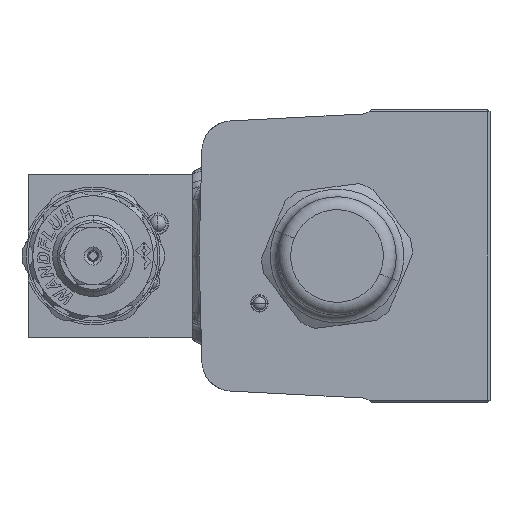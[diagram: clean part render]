
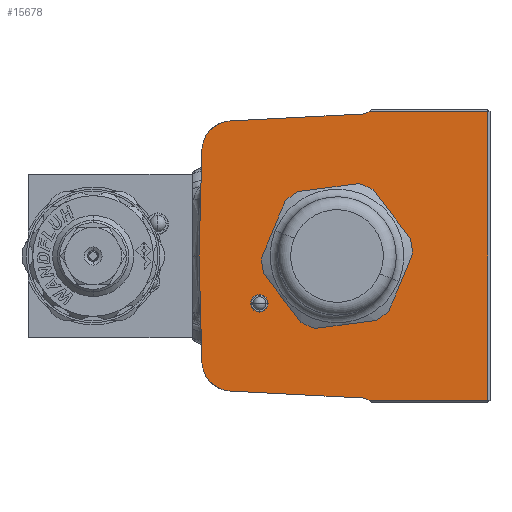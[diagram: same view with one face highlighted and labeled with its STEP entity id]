
A CAD part, left-side view. The second image highlights one B-rep face of the part: STEP entity #15678.
In plain terms, the highlighted planar face has unit normal (-1, 0, 0).
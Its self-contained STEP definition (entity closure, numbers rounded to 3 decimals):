
#401 = EDGE_CURVE ( 'NONE', #20166, #8171, #53503, .T. ) ;
#703 = CARTESIAN_POINT ( 'NONE',  ( -46.6, 31.978, -0.837 ) ) ;
#1311 = VERTEX_POINT ( 'NONE', #45543 ) ;
#1477 = EDGE_LOOP ( 'NONE', ( #17277, #48004, #50598, #7699, #42330, #36808, #29821, #4302, #20308, #52745, #30112 ) ) ;
#1654 = VECTOR ( 'NONE', #12699, 1000. ) ;
#1856 = LINE ( 'NONE', #61164, #1654 ) ;
#1963 = CIRCLE ( 'NONE', #23125, 7. ) ;
#2666 = DIRECTION ( 'NONE',  ( 0., -1., 0. ) ) ;
#2914 = CARTESIAN_POINT ( 'NONE',  ( -46.6, 24.36, 24.347 ) ) ;
#3034 = LINE ( 'NONE', #43818, #33593 ) ;
#3503 = EDGE_CURVE ( 'NONE', #56980, #53450, #12129, .T. ) ;
#4302 = ORIENTED_EDGE ( 'NONE', *, *, #29555, .F. ) ;
#4774 = DIRECTION ( 'NONE',  ( 0., -0.999, -0.052 ) ) ;
#5668 = CARTESIAN_POINT ( 'NONE',  ( -46.6, 1.706, 32.544 ) ) ;
#6726 = CIRCLE ( 'NONE', #28156, 3. ) ;
#7696 = DIRECTION ( 'NONE',  ( 0., 0., 1. ) ) ;
#7699 = ORIENTED_EDGE ( 'NONE', *, *, #29360, .T. ) ;
#8171 = VERTEX_POINT ( 'NONE', #10936 ) ;
#9348 = CARTESIAN_POINT ( 'NONE',  ( -46.6, 24.36, -24.347 ) ) ;
#9707 = VECTOR ( 'NONE', #35125, 1000. ) ;
#10095 = VECTOR ( 'NONE', #4774, 1000. ) ;
#10936 = CARTESIAN_POINT ( 'NONE',  ( -46.6, 18., -9. ) ) ;
#11263 = VERTEX_POINT ( 'NONE', #40922 ) ;
#11645 = CIRCLE ( 'NONE', #18099, 7. ) ;
#12129 = CIRCLE ( 'NONE', #18803, 16. ) ;
#12220 = DIRECTION ( 'NONE',  ( -1., 0., 0. ) ) ;
#12486 = AXIS2_PLACEMENT_3D ( 'NONE', #38245, #38233, #38167 ) ;
#12699 = DIRECTION ( 'NONE',  ( 0., -0.026, 1. ) ) ;
#12810 = VECTOR ( 'NONE', #32338, 1000. ) ;
#14294 = FACE_BOUND ( 'NONE', #25012, .T. ) ;
#14354 = DIRECTION ( 'NONE',  ( 0., 0., 1. ) ) ;
#15550 = VECTOR ( 'NONE', #56078, 1000. ) ;
#15678 = ADVANCED_FACE ( 'NONE', ( #54814, #14294, #36759 ), #38990, .T. ) ;
#15770 = LINE ( 'NONE', #21916, #15550 ) ;
#16339 = AXIS2_PLACEMENT_3D ( 'NONE', #41780, #12220, #46801 ) ;
#16427 = AXIS2_PLACEMENT_3D ( 'NONE', #60944, #32035, #2666 ) ;
#16498 = ORIENTED_EDGE ( 'NONE', *, *, #3503, .F. ) ;
#17277 = ORIENTED_EDGE ( 'NONE', *, *, #28984, .T. ) ;
#18099 = AXIS2_PLACEMENT_3D ( 'NONE', #9348, #43988, #14354 ) ;
#18227 = CARTESIAN_POINT ( 'NONE',  ( -46.6, 24.726, 31.337 ) ) ;
#18803 = AXIS2_PLACEMENT_3D ( 'NONE', #60745, #60732, #60687 ) ;
#19219 = CIRCLE ( 'NONE', #34845, 3. ) ;
#19504 = DIRECTION ( 'NONE',  ( 1., 0., 0. ) ) ;
#20166 = VERTEX_POINT ( 'NONE', #57768 ) ;
#20308 = ORIENTED_EDGE ( 'NONE', *, *, #25205, .T. ) ;
#21916 = CARTESIAN_POINT ( 'NONE',  ( -46.6, -35.5, -33.5 ) ) ;
#22060 = ORIENTED_EDGE ( 'NONE', *, *, #401, .F. ) ;
#23058 = VECTOR ( 'NONE', #39755, 1000. ) ;
#23125 = AXIS2_PLACEMENT_3D ( 'NONE', #2914, #37310, #7696 ) ;
#23338 = CARTESIAN_POINT ( 'NONE',  ( -46.6, 24.726, -31.337 ) ) ;
#23853 = LINE ( 'NONE', #703, #23058 ) ;
#24229 = EDGE_LOOP ( 'NONE', ( #45374, #16498 ) ) ;
#24701 = VERTEX_POINT ( 'NONE', #62940 ) ;
#25012 = EDGE_LOOP ( 'NONE', ( #50109, #22060 ) ) ;
#25129 = LINE ( 'NONE', #61206, #12810 ) ;
#25205 = EDGE_CURVE ( 'NONE', #1311, #32971, #23853, .T. ) ;
#25386 = DIRECTION ( 'NONE',  ( 1., 0., 0. ) ) ;
#27868 = DIRECTION ( 'NONE',  ( 0., 0., 1. ) ) ;
#28156 = AXIS2_PLACEMENT_3D ( 'NONE', #49121, #19504, #53769 ) ;
#28984 = EDGE_CURVE ( 'NONE', #46727, #11263, #19219, .T. ) ;
#29099 = EDGE_CURVE ( 'NONE', #11263, #60932, #15770, .T. ) ;
#29164 = EDGE_CURVE ( 'NONE', #60932, #24701, #25129, .T. ) ;
#29360 = EDGE_CURVE ( 'NONE', #24701, #40861, #3034, .T. ) ;
#29370 = EDGE_CURVE ( 'NONE', #40861, #61759, #6726, .T. ) ;
#29449 = EDGE_CURVE ( 'NONE', #61226, #61759, #57489, .T. ) ;
#29547 = EDGE_CURVE ( 'NONE', #61226, #45912, #1963, .T. ) ;
#29555 = EDGE_CURVE ( 'NONE', #1311, #45912, #1856, .T. ) ;
#29741 = EDGE_CURVE ( 'NONE', #56046, #32971, #11645, .T. ) ;
#29752 = EDGE_CURVE ( 'NONE', #56046, #46727, #49439, .T. ) ;
#29821 = ORIENTED_EDGE ( 'NONE', *, *, #29547, .T. ) ;
#29830 = EDGE_CURVE ( 'NONE', #8171, #20166, #47177, .T. ) ;
#29843 = EDGE_CURVE ( 'NONE', #53450, #56980, #44948, .T. ) ;
#30112 = ORIENTED_EDGE ( 'NONE', *, *, #29752, .T. ) ;
#31397 = CARTESIAN_POINT ( 'NONE',  ( -46.6, -16., 0. ) ) ;
#32035 = DIRECTION ( 'NONE',  ( -1., 0., 0. ) ) ;
#32221 = DIRECTION ( 'NONE',  ( -1., 0., 0. ) ) ;
#32338 = DIRECTION ( 'NONE',  ( 0., 0., 1. ) ) ;
#32971 = VERTEX_POINT ( 'NONE', #40334 ) ;
#33593 = VECTOR ( 'NONE', #34056, 1000. ) ;
#33755 = CARTESIAN_POINT ( 'NONE',  ( -46.6, -5.85, -32.94 ) ) ;
#34056 = DIRECTION ( 'NONE',  ( 0., 1., 0. ) ) ;
#34350 = CARTESIAN_POINT ( 'NONE',  ( -46.6, -35., -33.5 ) ) ;
#34845 = AXIS2_PLACEMENT_3D ( 'NONE', #54628, #25386, #59450 ) ;
#35125 = DIRECTION ( 'NONE',  ( 0., -0.999, 0.052 ) ) ;
#35538 = AXIS2_PLACEMENT_3D ( 'NONE', #52849, #32221, #27868 ) ;
#36759 = FACE_BOUND ( 'NONE', #24229, .T. ) ;
#36808 = ORIENTED_EDGE ( 'NONE', *, *, #29449, .F. ) ;
#37310 = DIRECTION ( 'NONE',  ( -1., 0., 0. ) ) ;
#38167 = DIRECTION ( 'NONE',  ( 0., 0., 1. ) ) ;
#38233 = DIRECTION ( 'NONE',  ( -1., 0., 0. ) ) ;
#38245 = CARTESIAN_POINT ( 'NONE',  ( -46.6, -35.5, -34. ) ) ;
#38990 = PLANE ( 'NONE',  #12486 ) ;
#39755 = DIRECTION ( 'NONE',  ( 0., -0.026, -1. ) ) ;
#40334 = CARTESIAN_POINT ( 'NONE',  ( -46.6, 31.358, -24.53 ) ) ;
#40861 = VERTEX_POINT ( 'NONE', #58549 ) ;
#40922 = CARTESIAN_POINT ( 'NONE',  ( -46.6, -7.444, -33.5 ) ) ;
#41780 = CARTESIAN_POINT ( 'NONE',  ( -46.6, 18., -11. ) ) ;
#42330 = ORIENTED_EDGE ( 'NONE', *, *, #29370, .T. ) ;
#43818 = CARTESIAN_POINT ( 'NONE',  ( -46.6, -35.5, 33.5 ) ) ;
#43988 = DIRECTION ( 'NONE',  ( 1., 0., 0. ) ) ;
#44948 = CIRCLE ( 'NONE', #16427, 16. ) ;
#45374 = ORIENTED_EDGE ( 'NONE', *, *, #29843, .F. ) ;
#45543 = CARTESIAN_POINT ( 'NONE',  ( -46.6, 32., 0. ) ) ;
#45912 = VERTEX_POINT ( 'NONE', #55002 ) ;
#46727 = VERTEX_POINT ( 'NONE', #33755 ) ;
#46801 = DIRECTION ( 'NONE',  ( 0., 0., 1. ) ) ;
#47177 = CIRCLE ( 'NONE', #16339, 2. ) ;
#48004 = ORIENTED_EDGE ( 'NONE', *, *, #29099, .T. ) ;
#49121 = CARTESIAN_POINT ( 'NONE',  ( -46.6, -5.693, 35.936 ) ) ;
#49439 = LINE ( 'NONE', #62931, #10095 ) ;
#50109 = ORIENTED_EDGE ( 'NONE', *, *, #29830, .F. ) ;
#50598 = ORIENTED_EDGE ( 'NONE', *, *, #29164, .T. ) ;
#52745 = ORIENTED_EDGE ( 'NONE', *, *, #29741, .F. ) ;
#52849 = CARTESIAN_POINT ( 'NONE',  ( -46.6, 18., -11. ) ) ;
#53450 = VERTEX_POINT ( 'NONE', #31397 ) ;
#53503 = CIRCLE ( 'NONE', #35538, 2. ) ;
#53769 = DIRECTION ( 'NONE',  ( 0., 0., 1. ) ) ;
#54628 = CARTESIAN_POINT ( 'NONE',  ( -46.6, -5.693, -35.936 ) ) ;
#54814 = FACE_OUTER_BOUND ( 'NONE', #1477, .T. ) ;
#55002 = CARTESIAN_POINT ( 'NONE',  ( -46.6, 31.358, 24.53 ) ) ;
#56046 = VERTEX_POINT ( 'NONE', #23338 ) ;
#56078 = DIRECTION ( 'NONE',  ( 0., -1., 0. ) ) ;
#56420 = CARTESIAN_POINT ( 'NONE',  ( -46.6, -5.85, 32.94 ) ) ;
#56980 = VERTEX_POINT ( 'NONE', #57431 ) ;
#57431 = CARTESIAN_POINT ( 'NONE',  ( -46.6, 16., 0. ) ) ;
#57489 = LINE ( 'NONE', #5668, #9707 ) ;
#57768 = CARTESIAN_POINT ( 'NONE',  ( -46.6, 18., -13. ) ) ;
#58549 = CARTESIAN_POINT ( 'NONE',  ( -46.6, -7.444, 33.5 ) ) ;
#59450 = DIRECTION ( 'NONE',  ( 0., 0., 1. ) ) ;
#60687 = DIRECTION ( 'NONE',  ( 0., -1., 0. ) ) ;
#60732 = DIRECTION ( 'NONE',  ( -1., 0., 0. ) ) ;
#60745 = CARTESIAN_POINT ( 'NONE',  ( -46.6, 0., 0. ) ) ;
#60932 = VERTEX_POINT ( 'NONE', #34350 ) ;
#60944 = CARTESIAN_POINT ( 'NONE',  ( -46.6, 0., 0. ) ) ;
#61164 = CARTESIAN_POINT ( 'NONE',  ( -46.6, 31.978, 0.837 ) ) ;
#61206 = CARTESIAN_POINT ( 'NONE',  ( -46.6, -35., -34. ) ) ;
#61226 = VERTEX_POINT ( 'NONE', #18227 ) ;
#61759 = VERTEX_POINT ( 'NONE', #56420 ) ;
#62931 = CARTESIAN_POINT ( 'NONE',  ( -46.6, 1.706, -32.544 ) ) ;
#62940 = CARTESIAN_POINT ( 'NONE',  ( -46.6, -35., 33.5 ) ) ;
